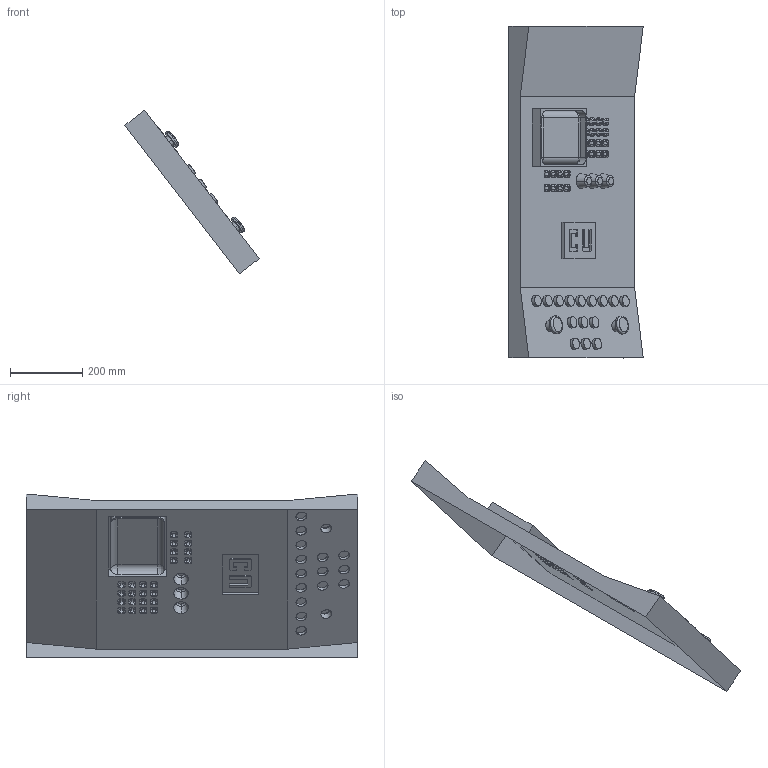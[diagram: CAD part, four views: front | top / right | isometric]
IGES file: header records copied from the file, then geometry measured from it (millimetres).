
Start section: START RECORD GO HERE.
Global section: file name: bati-pupitre.igs; native system: IBM CATIA IGES - CATIA Version 5 Release 11 ; preprocessor: CATIA Version 5 Release 11 ; author: mta; organization: MONTREUIL; date: 20031031.103808; units: millimetre
Bounding box: 372.67 x 920 x 454.75 mm (x, y, z)
Surface area: 739963.1 mm2 (no closed solid volume)
Topology: 0 solids, 0 shells, 546 faces, 2486 edges, 2386 vertices
Faces by surface type: revolution 258, plane 192, bspline 96
